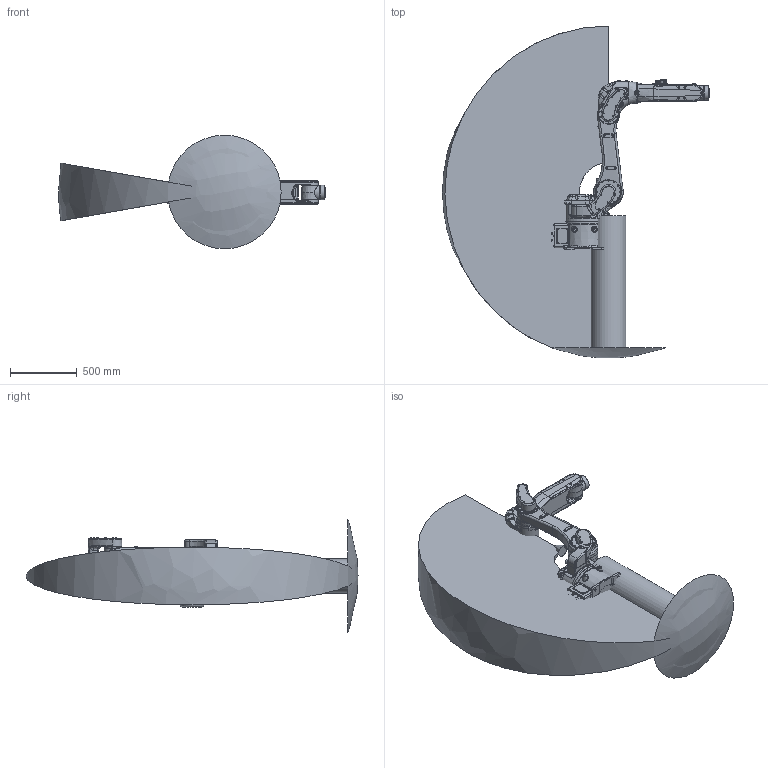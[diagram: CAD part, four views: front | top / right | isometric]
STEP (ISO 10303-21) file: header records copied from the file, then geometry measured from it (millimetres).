
FILE_DESCRIPTION (( 'STEP AP214' ), '1' );
FILE_NAME ('ER15-1400 机器人数模 V1.3（带包络图）.STEP', '2022-07-15T08:26:15', ( '' ), ( '' ), 'SwSTEP 2.0', 'SolidWorks 2021', '' );
FILE_SCHEMA (( 'AUTOMOTIVE_DESIGN' ));
Length unit declared in the file: millimetre
Products named in the file (9): ER15-1400 机器人数模 V1.3（带包络图）; 复件 J3电机座^ER15-1400 机器人数模 V1.3（带包络图）; 复件 J1转座^ER15-1400 机器人数模 V1.3（带包络图）; 复件 J6末端法兰^ER15-1400 机器人数模 V1.3（带包络图）; 复件 J4小臂^ER15-1400 机器人数模 V1.3（带包络图）; 复件 Base底座^ER15-1400 机器人数模 V1.3（带包络图）; 复件 J5手腕^ER15-1400 机器人数模 V1.3（带包络图）; 复件 J2大臂^ER15-1400 机器人数模 V1.3（带包络图）; 复件 包络图1^ER15-1400 机器人数模 V1.3（带包络图）
Assembly tree (8 placements, depth 2):
  ER15-1400 机器人数模 V1.3（带包络图）
    复件 Base底座^ER15-1400 机器人数模 V1.3（带包络图）
    复件 J1转座^ER15-1400 机器人数模 V1.3（带包络图）
    复件 J2大臂^ER15-1400 机器人数模 V1.3（带包络图）
    复件 J3电机座^ER15-1400 机器人数模 V1.3（带包络图）
    复件 J4小臂^ER15-1400 机器人数模 V1.3（带包络图）
    复件 J5手腕^ER15-1400 机器人数模 V1.3（带包络图）
    复件 J6末端法兰^ER15-1400 机器人数模 V1.3（带包络图）
    复件 包络图1^ER15-1400 机器人数模 V1.3（带包络图）
Bounding box: 1995.89 x 2480 x 848.21 mm (x, y, z)
Volume: 575637188.8 mm3; surface area: 10304732.8 mm2
Topology: 89 solids, 90 shells, 6348 faces, 15065 edges, 9325 vertices
Faces by surface type: plane 2449, cylinder 1657, bspline 1240, torus 555, cone 378, sphere 69
Full cylindrical faces by diameter (mm): 0.537 x2, 0.788 x2, 2.5 x18, 3 x52, 3.464 x8, 3.5 x16, 4 x22, 4.1 x4, 4.154 x1, 4.2 x14, 4.5 x4, 4.8 x4, 5 x45, 5.1 x6, 5.13 x5, 5.5 x24, 6 x23, 7 x111, 7.6 x4, 8 x16, 8.5 x31, 9 x6, 10 x31, 10.2 x7, 10.5 x8, 11.45 x3, 11.8 x3, 12 x10, 12.1 x4, 14 x5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
Entity records: 258372 total; most frequent: CARTESIAN_POINT 126267, ORIENTED_EDGE 26850, DIRECTION 25098, EDGE_CURVE 13425, AXIS2_PLACEMENT_3D 9983, VERTEX_POINT 8887, EDGE_LOOP 8076, FACE_OUTER_BOUND 7223
